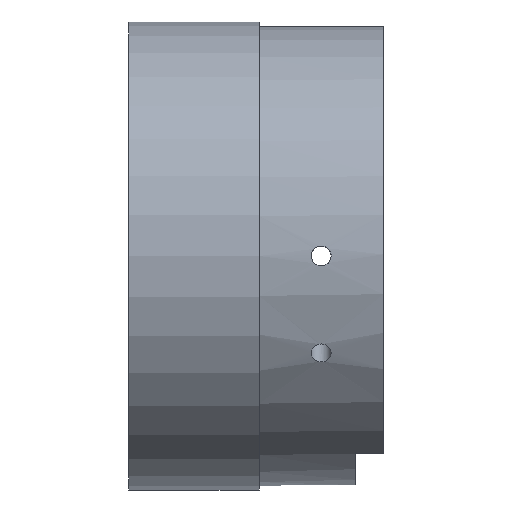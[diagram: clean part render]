
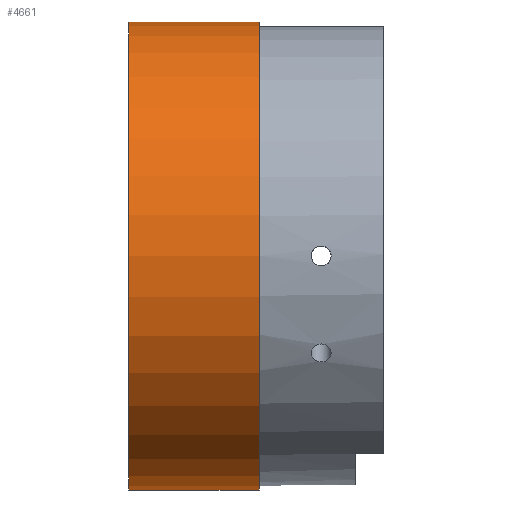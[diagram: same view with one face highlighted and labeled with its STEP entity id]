
A CAD part, front view. The second image highlights one B-rep face of the part: STEP entity #4661.
In plain terms, the highlighted cylindrical face has radius 18.85 mm (diameter 37.7 mm), a full revolution.
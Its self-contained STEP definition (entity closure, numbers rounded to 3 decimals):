
#21 = EDGE_CURVE('',#22,#22,#24,.T.);
#22 = VERTEX_POINT('',#23);
#23 = CARTESIAN_POINT('',(339.5,0.,18.85));
#24 = SURFACE_CURVE('',#25,(#30,#42),.PCURVE_S1.);
#25 = CIRCLE('',#26,18.85);
#26 = AXIS2_PLACEMENT_3D('',#27,#28,#29);
#27 = CARTESIAN_POINT('',(339.5,0.,0.));
#28 = DIRECTION('',(1.,0.,0.));
#29 = DIRECTION('',(-0.,0.,1.));
#30 = PCURVE('',#31,#36);
#31 = PLANE('',#32);
#32 = AXIS2_PLACEMENT_3D('',#33,#34,#35);
#33 = CARTESIAN_POINT('',(339.5,-30.,-30.));
#34 = DIRECTION('',(1.,0.,-0.));
#35 = DIRECTION('',(0.,0.,1.));
#36 = DEFINITIONAL_REPRESENTATION('',(#37),#41);
#37 = CIRCLE('',#38,18.85);
#38 = AXIS2_PLACEMENT_2D('',#39,#40);
#39 = CARTESIAN_POINT('',(30.,-30.));
#40 = DIRECTION('',(1.,0.));
#41 = ( GEOMETRIC_REPRESENTATION_CONTEXT(2) 
PARAMETRIC_REPRESENTATION_CONTEXT() REPRESENTATION_CONTEXT('2D SPACE',''
  ) );
#42 = PCURVE('',#43,#48);
#43 = CYLINDRICAL_SURFACE('',#44,18.85);
#44 = AXIS2_PLACEMENT_3D('',#45,#46,#47);
#45 = CARTESIAN_POINT('',(330.,0.,0.));
#46 = DIRECTION('',(1.,0.,0.));
#47 = DIRECTION('',(-0.,0.,1.));
#48 = DEFINITIONAL_REPRESENTATION('',(#49),#53);
#49 = LINE('',#50,#51);
#50 = CARTESIAN_POINT('',(0.,9.5));
#51 = VECTOR('',#52,1.);
#52 = DIRECTION('',(1.,0.));
#53 = ( GEOMETRIC_REPRESENTATION_CONTEXT(2) 
PARAMETRIC_REPRESENTATION_CONTEXT() REPRESENTATION_CONTEXT('2D SPACE',''
  ) );
#2028 = PLANE('',#2029);
#2029 = AXIS2_PLACEMENT_3D('',#2030,#2031,#2032);
#2030 = CARTESIAN_POINT('',(350.,-60.,-120.));
#2031 = DIRECTION('',(1.,0.,-0.));
#2032 = DIRECTION('',(0.,0.,1.));
#2541 = EDGE_CURVE('',#2542,#2542,#2544,.T.);
#2542 = VERTEX_POINT('',#2543);
#2543 = CARTESIAN_POINT('',(350.,0.,18.85));
#2544 = SURFACE_CURVE('',#2545,(#2550,#2561),.PCURVE_S1.);
#2545 = CIRCLE('',#2546,18.85);
#2546 = AXIS2_PLACEMENT_3D('',#2547,#2548,#2549);
#2547 = CARTESIAN_POINT('',(350.,0.,0.));
#2548 = DIRECTION('',(-1.,0.,0.));
#2549 = DIRECTION('',(0.,0.,1.));
#2550 = PCURVE('',#2028,#2551);
#2551 = DEFINITIONAL_REPRESENTATION('',(#2552),#2560);
#2552 = ( BOUNDED_CURVE() B_SPLINE_CURVE(2,(#2553,#2554,#2555,#2556,
#2557,#2558,#2559),.UNSPECIFIED.,.T.,.F.) B_SPLINE_CURVE_WITH_KNOTS((1,2
    ,2,2,2,1),(-2.094,0.,2.094,4.189,
6.283,8.378),.UNSPECIFIED.) CURVE() 
GEOMETRIC_REPRESENTATION_ITEM() RATIONAL_B_SPLINE_CURVE((1.,0.5,1.,0.5,
1.,0.5,1.)) REPRESENTATION_ITEM('') );
#2553 = CARTESIAN_POINT('',(138.85,-60.));
#2554 = CARTESIAN_POINT('',(138.85,-92.649));
#2555 = CARTESIAN_POINT('',(110.575,-76.325));
#2556 = CARTESIAN_POINT('',(82.3,-60.));
#2557 = CARTESIAN_POINT('',(110.575,-43.675));
#2558 = CARTESIAN_POINT('',(138.85,-27.351));
#2559 = CARTESIAN_POINT('',(138.85,-60.));
#2560 = ( GEOMETRIC_REPRESENTATION_CONTEXT(2) 
PARAMETRIC_REPRESENTATION_CONTEXT() REPRESENTATION_CONTEXT('2D SPACE',''
  ) );
#2561 = PCURVE('',#43,#2562);
#2562 = DEFINITIONAL_REPRESENTATION('',(#2563),#2567);
#2563 = LINE('',#2564,#2565);
#2564 = CARTESIAN_POINT('',(6.283,20.));
#2565 = VECTOR('',#2566,1.);
#2566 = DIRECTION('',(-1.,-0.));
#2567 = ( GEOMETRIC_REPRESENTATION_CONTEXT(2) 
PARAMETRIC_REPRESENTATION_CONTEXT() REPRESENTATION_CONTEXT('2D SPACE',''
  ) );
#4661 = ADVANCED_FACE('',(#4662),#43,.T.);
#4662 = FACE_BOUND('',#4663,.T.);
#4663 = EDGE_LOOP('',(#4664,#4665,#4686,#4687));
#4664 = ORIENTED_EDGE('',*,*,#21,.T.);
#4665 = ORIENTED_EDGE('',*,*,#4666,.T.);
#4666 = EDGE_CURVE('',#22,#2542,#4667,.T.);
#4667 = SEAM_CURVE('',#4668,(#4672,#4679),.PCURVE_S1.);
#4668 = LINE('',#4669,#4670);
#4669 = CARTESIAN_POINT('',(339.5,0.,18.85));
#4670 = VECTOR('',#4671,1.);
#4671 = DIRECTION('',(1.,0.,0.));
#4672 = PCURVE('',#43,#4673);
#4673 = DEFINITIONAL_REPRESENTATION('',(#4674),#4678);
#4674 = LINE('',#4675,#4676);
#4675 = CARTESIAN_POINT('',(6.283,9.5));
#4676 = VECTOR('',#4677,1.);
#4677 = DIRECTION('',(0.,1.));
#4678 = ( GEOMETRIC_REPRESENTATION_CONTEXT(2) 
PARAMETRIC_REPRESENTATION_CONTEXT() REPRESENTATION_CONTEXT('2D SPACE',''
  ) );
#4679 = PCURVE('',#43,#4680);
#4680 = DEFINITIONAL_REPRESENTATION('',(#4681),#4685);
#4681 = LINE('',#4682,#4683);
#4682 = CARTESIAN_POINT('',(0.,9.5));
#4683 = VECTOR('',#4684,1.);
#4684 = DIRECTION('',(0.,1.));
#4685 = ( GEOMETRIC_REPRESENTATION_CONTEXT(2) 
PARAMETRIC_REPRESENTATION_CONTEXT() REPRESENTATION_CONTEXT('2D SPACE',''
  ) );
#4686 = ORIENTED_EDGE('',*,*,#2541,.T.);
#4687 = ORIENTED_EDGE('',*,*,#4666,.F.);
